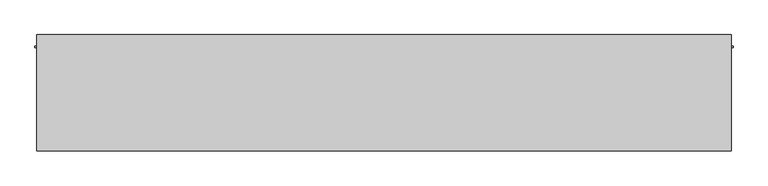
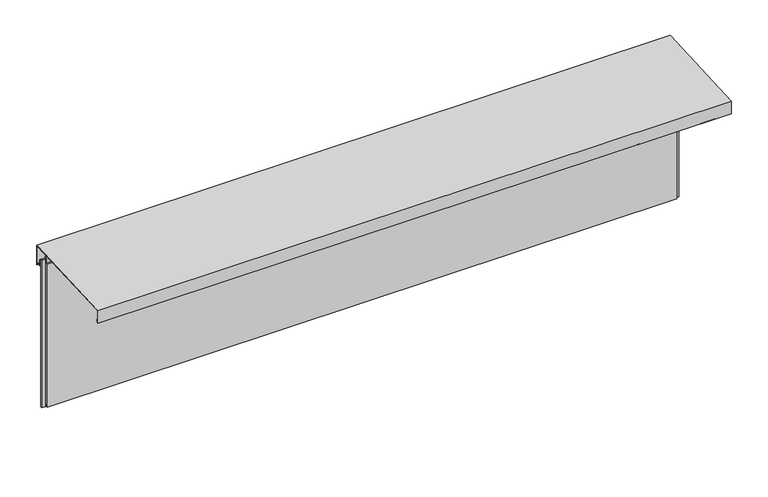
"""IFC4 building model written with IfcOpenShell, lengths in millimetres: plate geometry, Trimo_Qbiss Screen_Normal Panel-HORIZONTAL : HR - B."""

from ifc_helpers import new_model, si_unit, frame, origin, place, context, project, spatial, polyline, outline, extrude, source, transform, mapped, element, save


def plate_1b8ac71a(model_context):
    return source(origin(), model_context, "Body", "SweptSolid", [
        extrude(outline(polyline([(101.0, 868.0), (77.0, 868.0), (77.0, 868.8), (101.8, 868.8), (101.8, 831.8), (125.3313708, 831.8), (133.2, 823.9313708), (133.2, 822.8), (125.0, 831.0), (101.0, 831.0), (101.0, 868.0)])), frame((-1806.9329565, 0.0, 0.0), z_axis=(1.0, 0.0, 0.0), x_axis=(0.0, 1.0, 0.0)), (0.0, 0.0, 1.0), 3613.8659129),
        extrude(outline(polyline([(134.2, 818.9715729), (134.2, 934.1569759), (-469.2, 905.4165497), (-469.2, 833.1070922), (-457.6367532, 844.670339), (-457.0710678, 844.1046536), (-470.0, 831.1757214), (-470.0, 906.1757214), (135.0, 935.0), (135.0, 817.040202), (123.020101, 829.020101), (123.5857864, 829.5857864), (134.2, 818.9715729)])), frame((-1806.9329565, 0.0, 0.0), z_axis=(1.0, 0.0, 0.0), x_axis=(0.0, 1.0, 0.0)), (0.0, 0.0, 1.0), 3613.8659129),
        extrude(outline(polyline([(-1797.4329565, 76.5978162), (-1797.4329565, 67.8978162), (-1816.4329565, 67.8978162), (-1816.4329565, 76.5978162), (-1797.4329565, 76.5978162)])), frame((0.0, 0.0, -1.0), z_axis=(0.0, 0.0, 1.0), x_axis=(1.0, 0.0, 0.0)), (0.0, 0.0, 1.0), 890.0),
        extrude(outline(polyline([(1797.4329565, 67.8978162), (1797.4329565, 76.5978162), (1816.4329565, 76.5978162), (1816.4329565, 67.8978162), (1797.4329565, 67.8978162)])), frame((0.0, 0.0, -1.0), z_axis=(0.0, 0.0, 1.0), x_axis=(1.0, 0.0, 0.0)), (0.0, 0.0, 1.0), 890.0),
        extrude(outline(polyline([(1794.4329565, 76.0), (1794.4329565, 71.0), (-1794.4329565, 71.0), (-1794.4329565, 76.0), (1794.4329565, 76.0)])), frame((0.0, 0.0, 868.0), z_axis=(0.0, 0.0, 1.0), x_axis=(1.0, 0.0, 0.0)), (0.0, 0.0, 1.0), 21.0),
        extrude(outline(polyline([(71.0, 867.0), (100.0, 867.0), (100.0, 0.0), (72.0, 0.0), (72.0, 15.5), (62.0, 15.5), (62.0, 7.0), (50.0, 7.0), (50.0, 867.0), (63.0, 867.0), (63.0, 904.5), (71.0, 904.5), (71.0, 867.0)])), frame((-1794.4329565, 0.0, 0.0), z_axis=(1.0, 0.0, 0.0), x_axis=(0.0, 1.0, 0.0)), (0.0, 0.0, 1.0), 3588.8659129),
    ])


if __name__ == "__main__":
    model = new_model("IFC4")
    model_context = context("Model", 3, world=origin())
    ifc_project = project(units=[si_unit("LENGTHUNIT", "METRE", prefix="MILLI")], contexts=[model_context])
    site = spatial("IfcSite", under=ifc_project)
    building = spatial("IfcBuilding", under=site)
    placement = place(None, origin())
    plate_shape = plate_1b8ac71a(model_context)
    element("IfcPlate", 1, ObjectType="Trimo_Qbiss Screen_Normal Panel-HORIZONTAL : HR - B", at=placement, inside=building, context=model_context, shape_type="MappedRepresentation", body=[
        mapped(plate_shape, transform((0.0, 0.0, 0.0), x_axis=(1.0, 0.0, 0.0), y_axis=(0.0, 1.0, 0.0), z_axis=(0.0, 0.0, 1.0))),
    ])
    save(model, "model.ifc")
